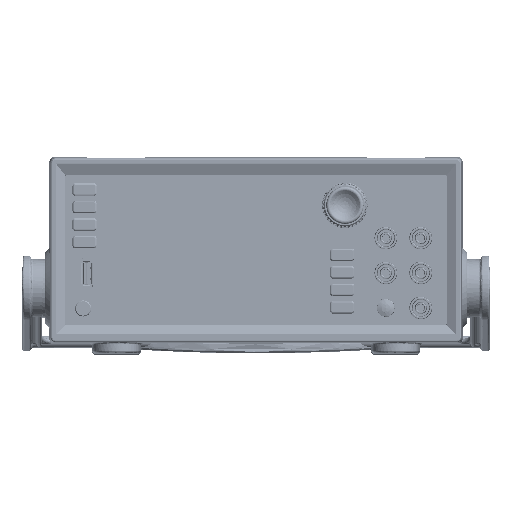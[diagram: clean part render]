
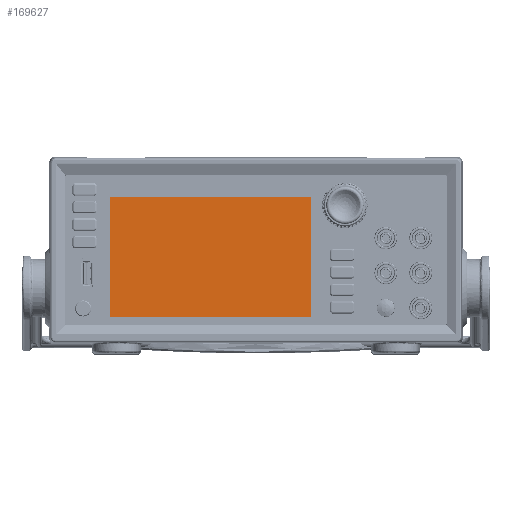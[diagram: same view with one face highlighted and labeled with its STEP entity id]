
A CAD part, top view. The second image highlights one B-rep face of the part: STEP entity #169627.
In plain terms, the highlighted planar face has unit normal (0, 0, 1).
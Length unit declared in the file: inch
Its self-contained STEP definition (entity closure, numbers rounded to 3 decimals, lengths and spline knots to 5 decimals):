
#169512=DIRECTION('',(0.,-1.,0.));
#169513=VECTOR('',#169512,2.99);
#169514=CARTESIAN_POINT('',(-2.3325,1.495,0.05));
#169515=LINE('',#169514,#169513);
#169516=DIRECTION('',(-1.,0.,0.));
#169517=VECTOR('',#169516,4.665);
#169518=CARTESIAN_POINT('',(2.3325,1.495,0.05));
#169519=LINE('',#169518,#169517);
#169520=DIRECTION('',(0.,1.,0.));
#169521=VECTOR('',#169520,2.99);
#169522=CARTESIAN_POINT('',(2.3325,-1.495,0.05));
#169523=LINE('',#169522,#169521);
#169524=DIRECTION('',(1.,0.,0.));
#169525=VECTOR('',#169524,4.665);
#169526=CARTESIAN_POINT('',(-2.3325,-1.495,0.05));
#169527=LINE('',#169526,#169525);
#169536=CARTESIAN_POINT('',(-2.3325,1.495,0.05));
#169537=CARTESIAN_POINT('',(-2.3325,-1.495,0.05));
#169538=VERTEX_POINT('',#169536);
#169539=VERTEX_POINT('',#169537);
#169540=CARTESIAN_POINT('',(2.3325,-1.495,0.05));
#169541=VERTEX_POINT('',#169540);
#169542=CARTESIAN_POINT('',(2.3325,1.495,0.05));
#169543=VERTEX_POINT('',#169542);
#169616=CARTESIAN_POINT('',(0.,0.,0.05));
#169617=DIRECTION('',(0.,0.,1.));
#169618=DIRECTION('',(1.,0.,0.));
#169619=AXIS2_PLACEMENT_3D('',#169616,#169617,#169618);
#169620=PLANE('',#169619);
#169621=ORIENTED_EDGE('',*,*,#169568,.F.);
#169622=ORIENTED_EDGE('',*,*,#169583,.F.);
#169623=ORIENTED_EDGE('',*,*,#169597,.F.);
#169624=ORIENTED_EDGE('',*,*,#169610,.F.);
#169625=EDGE_LOOP('',(#169621,#169622,#169623,#169624));
#169626=FACE_OUTER_BOUND('',#169625,.F.);
#169627=ADVANCED_FACE('',(#169626),#169620,.T.);
#169568=EDGE_CURVE('',#169538,#169539,#169515,.T.);
#169583=EDGE_CURVE('',#169543,#169538,#169519,.T.);
#169597=EDGE_CURVE('',#169541,#169543,#169523,.T.);
#169610=EDGE_CURVE('',#169539,#169541,#169527,.T.);
